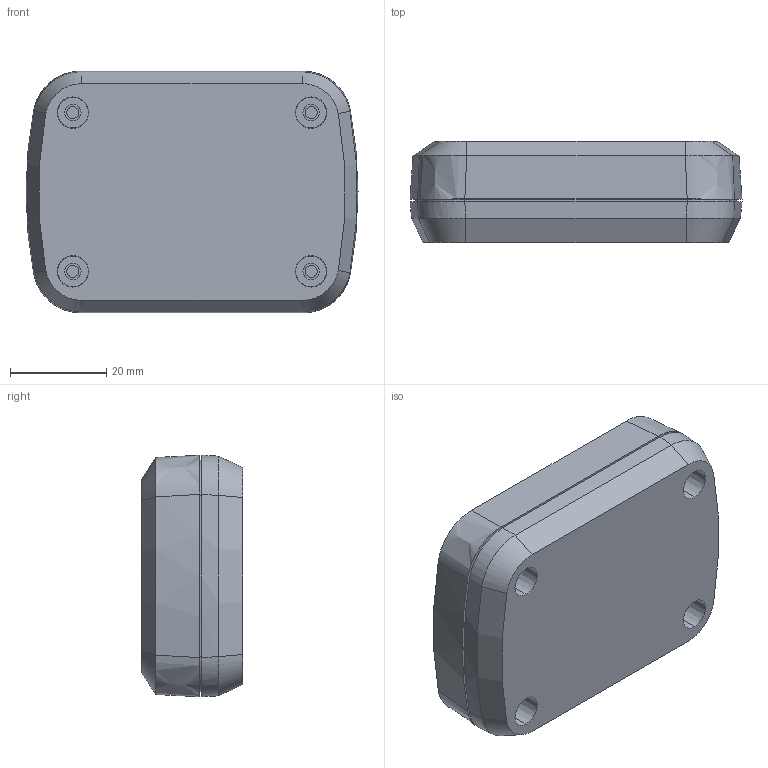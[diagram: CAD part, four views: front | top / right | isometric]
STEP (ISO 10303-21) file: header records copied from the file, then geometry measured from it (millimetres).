
FILE_DESCRIPTION (( 'STEP AP203' ), '1' );
FILE_NAME ('PH042.STEP', '2016-05-16T07:26:35', ( 'admin' ), ( 'Hewlett-Packard Company' ), 'SwSTEP 2.0', 'SolidWorks 2014', '' );
FILE_SCHEMA (( 'CONFIG_CONTROL_DESIGN' ));
Length unit declared in the file: millimetre
Products named in the file (3): PH042
Assembly tree (2 placements, depth 2):
  PH042
    PH042
    PH042
Bounding box: 69 x 21 x 50.2 mm (x, y, z)
Volume: 23468.2 mm3; surface area: 28059.7 mm2
Topology: 3 solids, 3 shells, 241 faces, 586 edges, 378 vertices
Faces by surface type: plane 79, cylinder 64, bspline 62, cone 36
Entity records: 11305 total; most frequent: CARTESIAN_POINT 5732, ORIENTED_EDGE 1172, DIRECTION 946, EDGE_CURVE 586, AXIS2_PLACEMENT_3D 378, VERTEX_POINT 378, EDGE_LOOP 284, FACE_OUTER_BOUND 241
